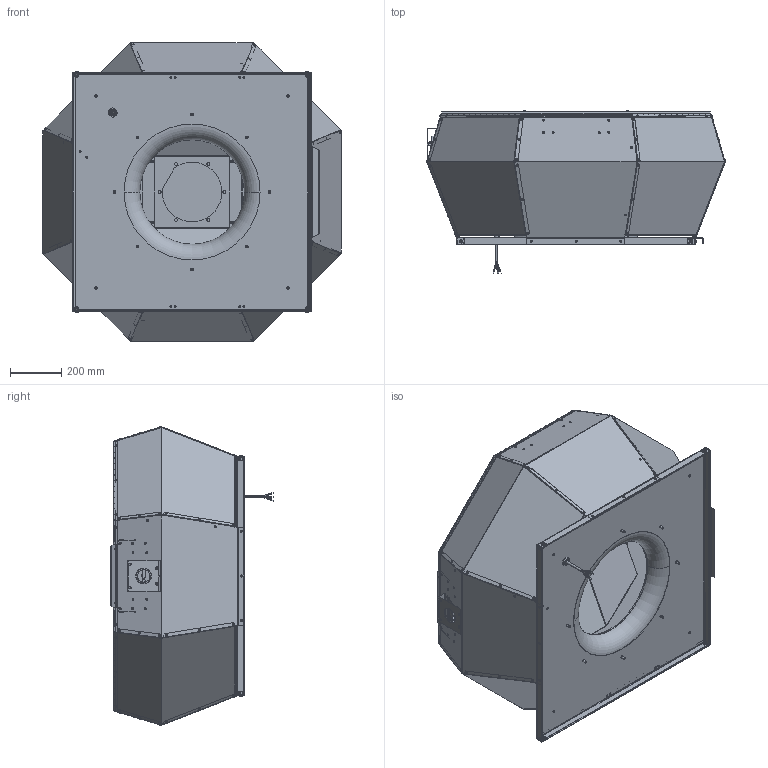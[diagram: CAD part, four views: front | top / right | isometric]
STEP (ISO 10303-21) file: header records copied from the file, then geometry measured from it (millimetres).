
FILE_DESCRIPTION (( 'STEP AP203' ), '1' );
FILE_NAME ('139239-00_DVA560ECP31.STEP', '2017-03-28T10:03:27', ( '' ), ( '' ), 'SwSTEP 2.0', 'SolidWorks 2012', '' );
FILE_SCHEMA (( 'CONFIG_CONTROL_DESIGN' ));
Products named in the file (1): 139239-00_DVA560ECP31
Bounding box: 1165.68 x 638.78 x 1165.12 mm (x, y, z)
Surface area: 8017934.2 mm2 (no closed solid volume)
Topology: 0 solids, 331 shells, 5790 faces, 21388 edges, 15493 vertices
Faces by surface type: plane 4762, cylinder 503, torus 501, cone 24
Entity records: 225490 total; most frequent: CARTESIAN_POINT 46132, DIRECTION 35938, ORIENTED_EDGE 31166, EDGE_CURVE 21388, LINE 17320, VECTOR 17320, VERTEX_POINT 15493, AXIS2_PLACEMENT_3D 9309
